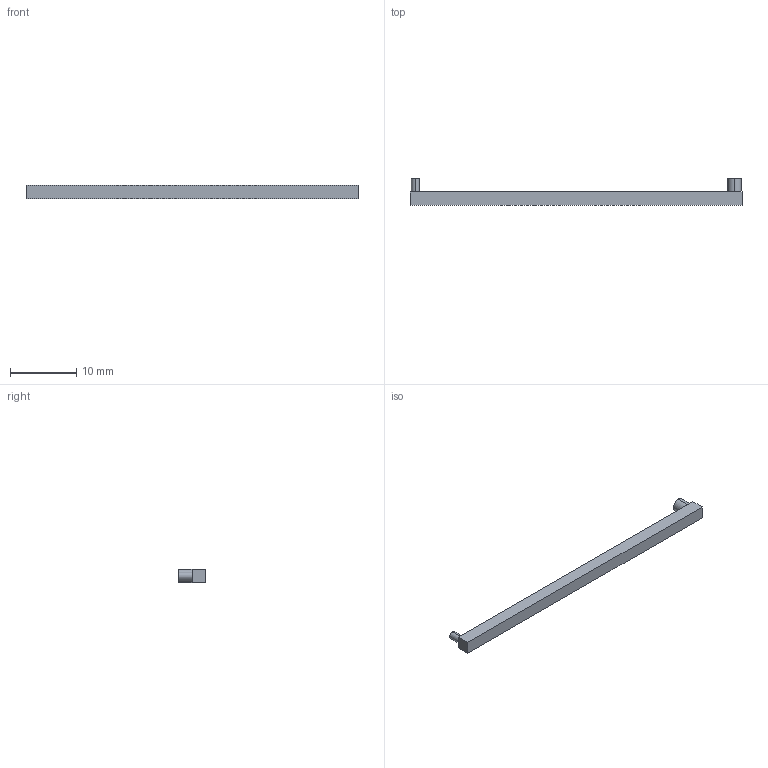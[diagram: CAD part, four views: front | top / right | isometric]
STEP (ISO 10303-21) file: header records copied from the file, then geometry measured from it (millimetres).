
FILE_DESCRIPTION (( 'STEP AP214' ), '1' );
FILE_NAME ('arame_servo_interior.STEP', '2026-11-19T20:04:41', ( '' ), ( '' ), 'SwSTEP 2.0', 'SolidWorks 2026', '' );
FILE_SCHEMA (( 'AUTOMOTIVE_DESIGN' ));
Length unit declared in the file: millimetre
Products named in the file (1): arame_servo_interior
Bounding box: 50 x 4 x 2 mm (x, y, z)
Volume: 208.5 mm3; surface area: 428 mm2
Topology: 1 solids, 1 shells, 13 faces, 26 edges, 16 vertices
Faces by surface type: plane 9, cylinder 4
Entity records: 359 total; most frequent: DIRECTION 62, CARTESIAN_POINT 56, ORIENTED_EDGE 52, EDGE_CURVE 26, AXIS2_PLACEMENT_3D 22, LINE 18, VECTOR 18, VERTEX_POINT 16
